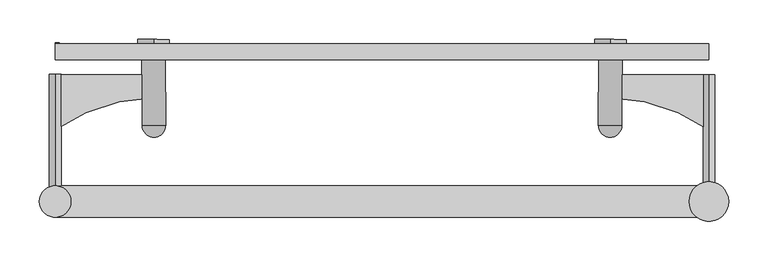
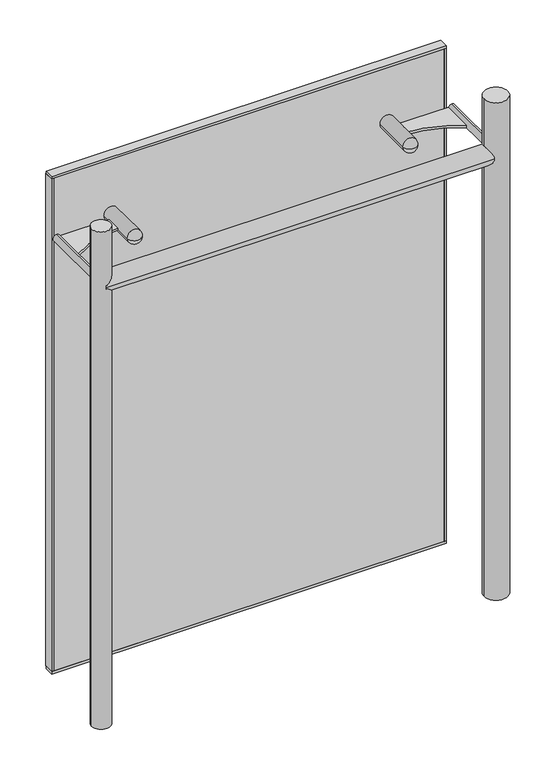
"""IFC4 building model written with IfcOpenShell, lengths in millimetres: plate geometry, FLATNING_TRYOUT : FLATNING_TRYOUT."""

from ifc_helpers import new_model, si_unit, point, frame, frame_2d, origin, origin_with_axes, place, context, project, spatial, polyline, circle_curve, ellipse_curve, trimmed, segment, composite_curve, outline, extrude, source, transform, mapped, element, save
from ifc_brep_helpers import plane_surface, cylinder_surface, revolved_surface, advanced_brep


def plate_2a50b36d(model_context):
    return source(origin(), model_context, "Body", "SolidModel", [
        extrude(outline(composite_curve([segment(polyline([(-289.9691142, -38.1197189), (-289.8146142, -68.119321)]), True, "CONTINUOUS"), segment(trimmed(circle_curve(frame_2d((-284.4323101, -296.5502979)), 228.4943772), [point((-289.8146142, -68.119321))], [point((-414.6069566, -108.7625406))], True, "CARTESIAN"), True, "CONTINUOUS"), segment(polyline([(-414.6069566, -108.7625406), (-414.9674566, -38.7634689), (-289.9691142, -38.1197189)]), True, "CONTINUOUS")], self_intersect=False)), frame((0.0, 0.0, 977.5), z_axis=(0.0, 0.0, 1.0), x_axis=(1.0, 0.0, 0.0)), (0.0, 0.0, 1.0), 5.0),
        advanced_brep(
        [(-290.1751142, 1.8797507, 980.0), (-295.1750479, 1.8540007, 980.0), (-285.1751805, 1.9055007, 980.0), (-275.0723131, -18.0427341, 980.0), (-305.0719153, -18.1972341, 980.0), (-304.6341653, -103.1961069, 980.0), (-274.6345631, -103.0416069, 980.0), (-285.0721805, -18.0942341, 980.0), (-295.0720479, -18.1457341, 980.0), (-289.5571142, -118.1186579, 980.0)],
        [
            (0, 1),
            (1, 2, circle_curve(frame((-290.1751142, 1.8797507, 980.0), z_axis=(-0.0051500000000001, 0.9999867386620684, 0.0), x_axis=(-0.9999867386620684, -0.0051500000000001, 0.0)), 5.0)),
            (2, 0),
            (2, 1, circle_curve(frame((-290.1751142, 1.8797507, 980.0), z_axis=(-0.0051500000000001, 0.9999867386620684, 0.0), x_axis=(-0.9999867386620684, -0.0051500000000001, 0.0)), 5.0)),
            (3, 4, circle_curve(frame((-290.0721142, -18.1199841, 980.0), z_axis=(0.0051500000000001, -0.9999867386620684, 0.0), x_axis=(-0.9999867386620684, -0.0051500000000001, 0.0)), 15.0)),
            (4, 5),
            (5, 6, circle_curve(frame((-289.6343642, -103.1188569, 980.0), z_axis=(-0.0051500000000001, 0.9999867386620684, 0.0), x_axis=(-0.9999867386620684, -0.0051500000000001, 0.0)), 15.0)),
            (6, 3),
            (4, 3, circle_curve(frame((-290.0721142, -18.1199841, 980.0), z_axis=(0.0051500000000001, -0.9999867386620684, 0.0), x_axis=(-0.9999867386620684, -0.0051500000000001, 0.0)), 15.0)),
            (6, 5, circle_curve(frame((-289.6343642, -103.1188569, 980.0), z_axis=(-0.0051500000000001, 0.9999867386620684, 0.0), x_axis=(-0.9999867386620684, -0.0051500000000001, 0.0)), 15.0)),
            (7, 8, circle_curve(frame((-290.0721142, -18.1199841, 980.0), z_axis=(0.0051500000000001, -0.9999867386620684, 0.0), x_axis=(-0.9999867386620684, -0.0051500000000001, 0.0)), 5.0)),
            (8, 4),
            (3, 7),
            (8, 7, circle_curve(frame((-290.0721142, -18.1199841, 980.0), z_axis=(0.0051500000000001, -0.9999867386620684, 0.0), x_axis=(-0.9999867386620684, -0.0051500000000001, 0.0)), 5.0)),
            (1, 8),
            (7, 2),
            (5, 9, circle_curve(frame((-289.6343642, -103.1188569, 980.0), z_axis=(0.0, 0.0, 1.0), x_axis=(-0.9999867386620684, -0.0051500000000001, 0.0)), 15.0)),
            (9, 6, circle_curve(frame((-289.6343642, -103.1188569, 980.0), z_axis=(0.0, 0.0, 1.0), x_axis=(0.9999867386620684, 0.0051500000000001, 0.0)), 15.0)),
        ],
        [
            plane_surface(frame((-290.1751142, 1.8797507, 980.0), z_axis=(-0.0051500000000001, 0.9999867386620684, 0.0), x_axis=(-0.9999867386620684, -0.0051500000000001, 0.0))),
            cylinder_surface(frame((-291.4883642, 256.8763691, 980.0), z_axis=(-0.0051500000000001, 0.9999867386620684, 0.0), x_axis=(-0.9999867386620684, -0.0051500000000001, 0.0)), 15.0),
            plane_surface(frame((-290.0721142, -18.1199841, 980.0), z_axis=(-0.0051500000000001, 0.9999867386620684, 0.0), x_axis=(-0.9999867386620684, -0.0051500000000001, 0.0))),
            cylinder_surface(frame((-291.4883642, 256.8763691, 980.0), z_axis=(-0.0051500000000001, 0.9999867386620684, 0.0), x_axis=(-0.9999867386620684, -0.0051500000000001, 0.0)), 5.0),
            revolved_surface(trimmed(ellipse_curve(frame((-289.6343642, -103.1188569, 980.0), z_axis=(0.0, 0.0, -1.0), x_axis=(-0.9999867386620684, -0.0051500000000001, 0.0)), 15.0, 15.0), [point((-289.5571142, -118.1186579, 980.0))], [point((-304.6341653, -103.1961069, 980.0))], True, "CARTESIAN"), (-291.4883642, 256.8763691, 980.0), (-0.0051500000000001, 0.9999867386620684, 0.0)),
        ],
        [
            (0, [[1, 2, 3]]),
            (0, [[-3, 4, -1]]),
            (1, [[5, 6, 7, 8]]),
            (1, [[9, -8, 10, -6]]),
            (2, [[11, 12, -5, 13]]),
            (2, [[14, -13, -9, -12]]),
            (3, [[-2, 15, -11, 16]]),
            (3, [[-4, -16, -14, -15]]),
            (4, [[-7, 17, 18]]),
            (4, [[-10, -18, -17]]),
        ],
    ),
        extrude(outline(composite_curve([segment(polyline([(289.9691142, -38.1197189), (414.9674566, -38.7634689), (414.6069566, -108.7625406)]), True, "CONTINUOUS"), segment(trimmed(circle_curve(frame_2d((284.4323101, -296.5502979)), 228.4943772), [point((414.6069566, -108.7625406))], [point((289.8146142, -68.119321))], True, "CARTESIAN"), True, "CONTINUOUS"), segment(polyline([(289.8146142, -68.119321), (289.9691142, -38.1197189)]), True, "CONTINUOUS")], self_intersect=False)), frame((0.0, 0.0, 977.5), z_axis=(0.0, 0.0, 1.0), x_axis=(1.0, 0.0, 0.0)), (0.0, 0.0, 1.0), 5.0),
        advanced_brep(
        [(290.1751142, 1.8797507, 980.0), (295.1750479, 1.8540007, 980.0), (285.1751805, 1.9055007, 980.0), (275.0723131, -18.0427341, 980.0), (305.0719153, -18.1972341, 980.0), (304.6341653, -103.1961069, 980.0), (274.6345631, -103.0416069, 980.0), (285.0721805, -18.0942341, 980.0), (295.0720479, -18.1457341, 980.0), (289.5571142, -118.1186579, 980.0)],
        [
            (0, 1),
            (1, 2, circle_curve(frame((290.1751142, 1.8797507, 980.0), z_axis=(0.005149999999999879, 0.9999867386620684, 0.0), x_axis=(0.9999867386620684, -0.005149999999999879, 0.0)), 5.0)),
            (2, 0),
            (2, 1, circle_curve(frame((290.1751142, 1.8797507, 980.0), z_axis=(0.005149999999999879, 0.9999867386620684, 0.0), x_axis=(0.9999867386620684, -0.005149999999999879, 0.0)), 5.0)),
            (3, 4, circle_curve(frame((290.0721142, -18.1199841, 980.0), z_axis=(-0.005149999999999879, -0.9999867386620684, 0.0), x_axis=(0.9999867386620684, -0.005149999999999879, 0.0)), 15.0)),
            (4, 5),
            (5, 6, circle_curve(frame((289.6343642, -103.1188569, 980.0), z_axis=(0.005149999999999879, 0.9999867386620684, 0.0), x_axis=(0.9999867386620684, -0.005149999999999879, 0.0)), 15.0)),
            (6, 3),
            (4, 3, circle_curve(frame((290.0721142, -18.1199841, 980.0), z_axis=(-0.005149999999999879, -0.9999867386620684, 0.0), x_axis=(0.9999867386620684, -0.005149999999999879, 0.0)), 15.0)),
            (6, 5, circle_curve(frame((289.6343642, -103.1188569, 980.0), z_axis=(0.005149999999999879, 0.9999867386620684, 0.0), x_axis=(0.9999867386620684, -0.005149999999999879, 0.0)), 15.0)),
            (7, 8, circle_curve(frame((290.0721142, -18.1199841, 980.0), z_axis=(-0.005149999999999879, -0.9999867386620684, 0.0), x_axis=(0.9999867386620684, -0.005149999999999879, 0.0)), 5.0)),
            (8, 4),
            (3, 7),
            (8, 7, circle_curve(frame((290.0721142, -18.1199841, 980.0), z_axis=(-0.005149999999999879, -0.9999867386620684, 0.0), x_axis=(0.9999867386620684, -0.005149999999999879, 0.0)), 5.0)),
            (1, 8),
            (7, 2),
            (5, 9, circle_curve(frame((289.6343642, -103.1188569, 980.0), z_axis=(0.0, 0.0, -1.0), x_axis=(0.9999867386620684, -0.005149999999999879, 0.0)), 15.0)),
            (9, 6, circle_curve(frame((289.6343642, -103.1188569, 980.0), z_axis=(0.0, 0.0, -1.0), x_axis=(-0.9999867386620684, 0.005149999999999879, 0.0)), 15.0)),
        ],
        [
            plane_surface(frame((290.1751142, 1.8797507, 980.0), z_axis=(0.005149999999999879, 0.9999867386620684, 0.0), x_axis=(0.9999867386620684, -0.005149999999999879, 0.0))),
            cylinder_surface(frame((291.4883642, 256.8763691, 980.0), z_axis=(0.005149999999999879, 0.9999867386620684, 0.0), x_axis=(0.9999867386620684, -0.005149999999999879, 0.0)), 15.0),
            plane_surface(frame((290.0721142, -18.1199841, 980.0), z_axis=(0.005149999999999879, 0.9999867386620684, 0.0), x_axis=(0.9999867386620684, -0.005149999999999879, 0.0))),
            cylinder_surface(frame((291.4883642, 256.8763691, 980.0), z_axis=(0.005149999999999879, 0.9999867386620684, 0.0), x_axis=(0.9999867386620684, -0.005149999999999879, 0.0)), 5.0),
            revolved_surface(trimmed(ellipse_curve(frame((289.6343642, -103.1188569, 980.0), z_axis=(0.0, 0.0, 1.0), x_axis=(0.9999867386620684, -0.005149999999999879, 0.0)), 15.0, 15.0), [point((289.5571142, -118.1186579, 980.0))], [point((304.6341653, -103.1961069, 980.0))], True, "CARTESIAN"), (291.4883642, 256.8763691, 980.0), (0.005149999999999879, 0.9999867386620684, 0.0)),
        ],
        [
            (0, [[1, 2, 3]]),
            (0, [[-3, 4, -1]]),
            (1, [[5, 6, 7, 8]]),
            (1, [[9, -8, 10, -6]]),
            (2, [[11, 12, -5, 13]]),
            (2, [[14, -13, -9, -12]]),
            (3, [[-2, 15, -11, 16]]),
            (3, [[-4, -16, -14, -15]]),
            (4, [[-7, 17, 18]]),
            (4, [[-10, -18, -17]]),
        ],
    ),
        extrude(outline(polyline([(415.0, -20.0), (-415.0, -20.0), (-415.0, 0.0), (415.0, 0.0), (415.0, -20.0)])), origin_with_axes(), (0.0, 0.0, 1.0), 5.0),
        extrude(outline(polyline([(415.0, -20.0), (-415.0, -20.0), (-415.0, 0.0), (415.0, 0.0), (415.0, -20.0)])), frame((0.0, 0.0, 1100.0), z_axis=(0.0, 0.0, 1.0), x_axis=(1.0, 0.0, 0.0)), (0.0, 0.0, 1.0), 5.0),
        extrude(outline(polyline([(410.0, 0.0781286), (415.0, 0.0781286), (415.0, -20.0), (410.0, -20.0), (410.0, 0.0781286)])), frame((0.0, 0.0, 5.0), z_axis=(0.0, 0.0, 1.0), x_axis=(1.0, 0.0, 0.0)), (0.0, 0.0, 1.0), 1095.0),
        extrude(outline(polyline([(-410.0, 1.236894), (-410.0, -20.0), (-415.0000002, -20.0), (-415.0000002, 1.236894), (-410.0, 1.236894)])), frame((0.0, 0.0, 5.0), z_axis=(0.0, 0.0, 1.0), x_axis=(1.0, 0.0, 0.0)), (0.0, 0.0, 1.0), 1095.0),
        extrude(outline(polyline([(410.0, -20.0), (-410.0, -20.0), (-410.0, 0.0), (410.0, 0.0), (410.0, -20.0)])), frame((0.0, 0.0, 5.0), z_axis=(0.0, 0.0, 1.0), x_axis=(1.0, 0.0, 0.0)), (0.0, 0.0, 1.0), 1095.0),
        extrude(outline(composite_curve([segment(trimmed(circle_curve(frame_2d((0.0, -20.0)), 20.0), [point((0.0, -40.0))], [point((0.0, 0.0))], False, "CARTESIAN"), True, "CONTINUOUS"), segment(trimmed(circle_curve(frame_2d((0.0, -20.0)), 20.0), [point((0.0, 0.0))], [point((0.0, -40.0))], False, "CARTESIAN"), True, "CONTINUOUS")], self_intersect=False)), frame((-290.02575, 0.7218872, 1000.1579003), z_axis=(0.005149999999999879, 0.9999867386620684, 0.0), x_axis=(-0.9999867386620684, 0.005149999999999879, 0.0)), (0.0, 0.0, 1.0), 5.0),
        extrude(outline(composite_curve([segment(trimmed(circle_curve(frame_2d((0.0, -20.0)), 20.0), [point((0.0, -40.0))], [point((0.0, 0.0))], False, "CARTESIAN"), True, "CONTINUOUS"), segment(trimmed(circle_curve(frame_2d((0.0, -20.0)), 20.0), [point((0.0, 0.0))], [point((0.0, -40.0))], False, "CARTESIAN"), True, "CONTINUOUS")], self_intersect=False)), frame((289.97425, 0.7218872, 1000.1579003), z_axis=(0.005149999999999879, 0.9999867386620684, 0.0), x_axis=(-0.9999867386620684, 0.005149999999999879, 0.0)), (0.0, 0.0, 1.0), 5.0),
        extrude(outline(composite_curve([segment(trimmed(circle_curve(frame_2d((-200.0, 980.0)), 20.0), [point((-220.0, 980.0))], [point((-180.0, 980.0))], False, "CARTESIAN"), True, "CONTINUOUS"), segment(trimmed(circle_curve(frame_2d((-200.0, 980.0)), 20.0), [point((-180.0, 980.0))], [point((-220.0, 980.0))], False, "CARTESIAN"), True, "CONTINUOUS")], self_intersect=False)), frame((-415.0, 0.0, 0.0), z_axis=(1.0, 0.0, 0.0), x_axis=(0.0, 1.0, 0.0)), (0.0, 0.0, 1.0), 830.0),
        extrude(outline(composite_curve([segment(trimmed(circle_curve(frame_2d((980.0, 415.0)), 7.5), [point((972.5, 415.0))], [point((987.5, 415.0))], False, "CARTESIAN"), True, "CONTINUOUS"), segment(trimmed(circle_curve(frame_2d((980.0, 415.0)), 7.5), [point((987.5, 415.0))], [point((972.5, 415.0))], False, "CARTESIAN"), True, "CONTINUOUS")], self_intersect=False)), frame((0.0, -199.2242369, 0.0), z_axis=(0.0, 1.0, 0.0), x_axis=(0.0, 0.0, 1.0)), (0.0, 0.0, 1.0), 160.0),
        extrude(outline(composite_curve([segment(trimmed(circle_curve(frame_2d((980.0, -415.0)), 7.5), [point((972.5, -415.0))], [point((987.5, -415.0))], False, "CARTESIAN"), True, "CONTINUOUS"), segment(trimmed(circle_curve(frame_2d((980.0, -415.0)), 7.5), [point((987.5, -415.0))], [point((972.5, -415.0))], False, "CARTESIAN"), True, "CONTINUOUS")], self_intersect=False)), frame((0.0, -198.6528093, 0.0), z_axis=(0.0, 1.0, 0.0), x_axis=(0.0, 0.0, 1.0)), (0.0, 0.0, 1.0), 160.0),
        extrude(outline(composite_curve([segment(trimmed(circle_curve(frame_2d((415.0, -200.0)), 25.0), [point((390.0, -200.0))], [point((440.0, -200.0))], False, "CARTESIAN"), True, "CONTINUOUS"), segment(trimmed(circle_curve(frame_2d((415.0, -200.0)), 25.0), [point((440.0, -200.0))], [point((390.0, -200.0))], False, "CARTESIAN"), True, "CONTINUOUS")], self_intersect=False)), origin_with_axes(), (0.0, 0.0, 1.0), 1105.0),
        extrude(outline(composite_curve([segment(trimmed(circle_curve(frame_2d((-415.0, -200.0)), 20.0), [point((-435.0, -200.0))], [point((-395.0, -200.0))], False, "CARTESIAN"), True, "CONTINUOUS"), segment(trimmed(circle_curve(frame_2d((-415.0, -200.0)), 20.0), [point((-395.0, -200.0))], [point((-435.0, -200.0))], False, "CARTESIAN"), True, "CONTINUOUS")], self_intersect=False)), origin_with_axes(), (0.0, 0.0, 1.0), 1105.0),
    ])


if __name__ == "__main__":
    model = new_model("IFC4")
    model_context = context("Model", 3, world=origin())
    ifc_project = project(units=[si_unit("LENGTHUNIT", "METRE", prefix="MILLI")], contexts=[model_context])
    site = spatial("IfcSite", under=ifc_project)
    building = spatial("IfcBuilding", under=site)
    placement = place(None, origin())
    plate_shape = plate_2a50b36d(model_context)
    element("IfcPlate", 1, ObjectType="FLATNING_TRYOUT : FLATNING_TRYOUT", at=placement, inside=building, context=model_context, shape_type="MappedRepresentation", body=[
        mapped(plate_shape, transform((0.0, 0.0, 0.0), x_axis=(1.0, 0.0, 0.0), y_axis=(0.0, 1.0, 0.0), z_axis=(0.0, 0.0, 1.0))),
    ])
    save(model, "model.ifc")
